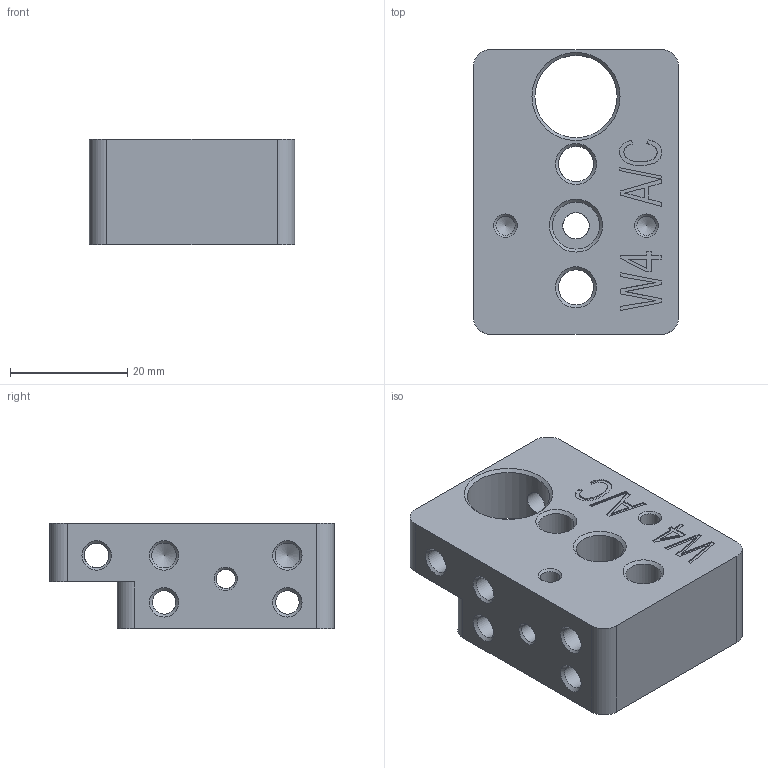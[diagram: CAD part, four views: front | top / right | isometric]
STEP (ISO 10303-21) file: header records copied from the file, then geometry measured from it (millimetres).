
FILE_DESCRIPTION(/* description */ (''),/* implementation_level */ '2;1');
FILE_NAME(/* name */ 'WHEELS-INSERT.16.stp',/* time_stamp */ '2018-10-12T17:19:04+02:00',/* author */ (''),/* organization */ (''),/* preprocessor_version */ 'ST-DEVELOPER v16.7',/* originating_system */ 'SIEMENS PLM Software NX 12.0',/* authorisation */ '');
FILE_SCHEMA (('AP203_CONFIGURATION_CONTROLLED_3D_DESIGN_OF_MECHANICAL_PARTS_AND_ASSEMBLIES_MIM_LF { 1 0 10303 403 2 1 2}'));
Length unit declared in the file: millimetre
Products named in the file (1): turc1934B35Eh6as
Bounding box: 35 x 48.5 x 18 mm (x, y, z)
Volume: 21604 mm3; surface area: 9138.4 mm2
Topology: 1 solids, 1 shells, 120 faces, 350 edges, 232 vertices
Faces by surface type: plane 53, cylinder 29, cone 28, extrusion 10
Full cylindrical faces by diameter (mm): 3.3 x8, 4 x4, 4.2 x6, 4.5 x1, 6 x2, 8 x1, 14 x1
Entity records: 4368 total; most frequent: CARTESIAN_POINT 1544, ORIENTED_EDGE 498, DIRECTION 488, EDGE_CURVE 249, AXIS2_PLACEMENT_3D 202, EDGE_LOOP 201, VERTEX_POINT 190, FACE_BOUND 144
